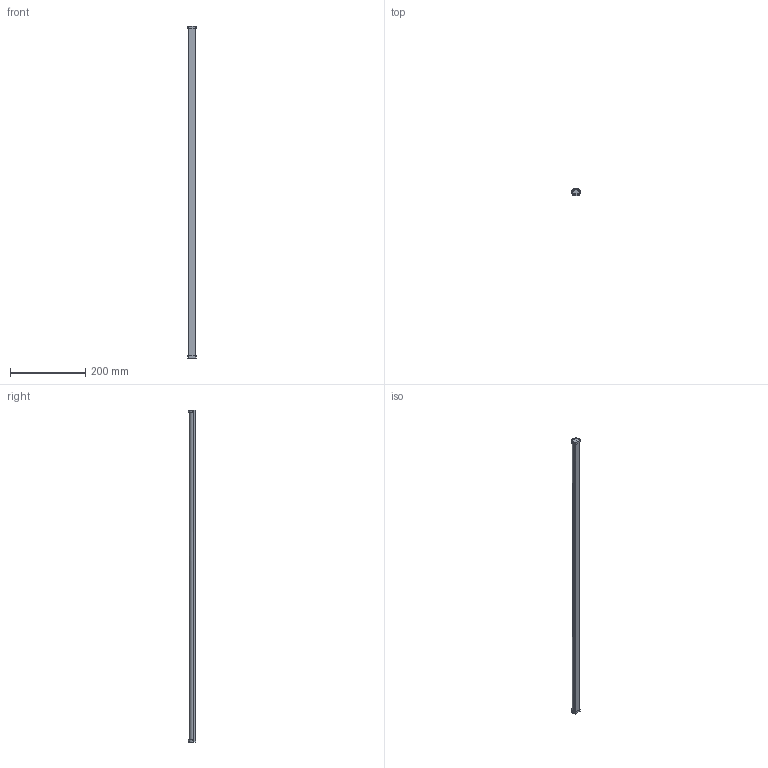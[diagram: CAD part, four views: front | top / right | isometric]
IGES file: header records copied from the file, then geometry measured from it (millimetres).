
Start section: SolidWorks IGES file using analytic representation for surfaces
Global section: file name: C:\Users\JoãoSantos\Desktop\02_3D.2D\01_2020\02_Linear\13_Limit\01_Limit\LIMIT_880.IGS; native system: SolidWorks 2020; preprocessor: SolidWorks 2020; author: JoãoSantos; date: 201023.143156; units: millimetre
Bounding box: 22.93 x 18.8 x 880 mm (x, y, z)
Surface area: 108656.3 mm2 (no closed solid volume)
Topology: 0 solids, 0 shells, 76 faces, 676 edges, 676 vertices
Faces by surface type: bspline 51, revolution 25
